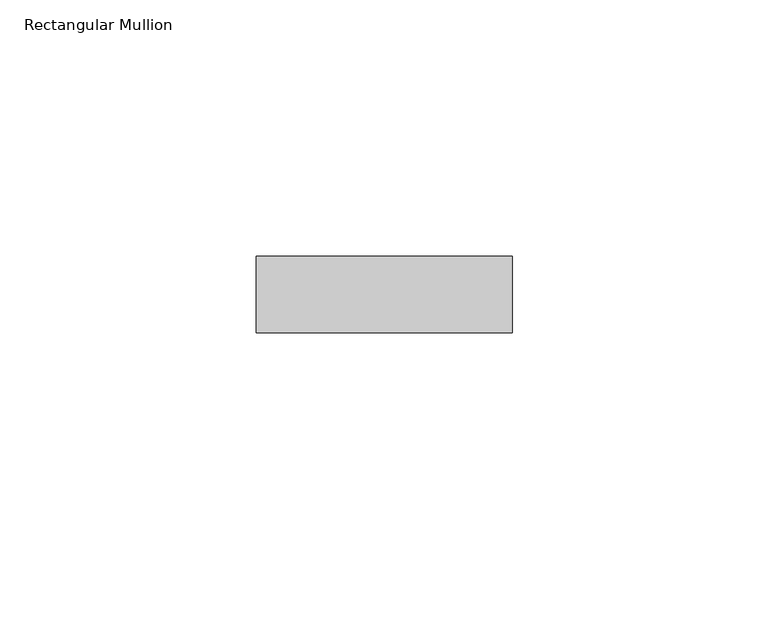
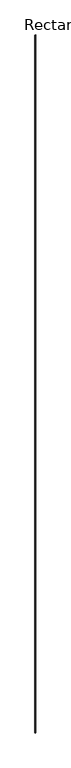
"""IFC4 building model written with IfcOpenShell, lengths in millimetres: member geometry, Rectangular Mullion : Ripa."""

from ifc_helpers import new_model, si_unit, frame, origin, place, context, project, spatial, polyline, outline, extrude, source, transform, mapped, element, save


def rectangular_mullion_f14c8d41(model_context):
    return source(origin(), model_context, "Body", "SweptSolid", [
        extrude(outline(polyline([(0.0, -75.0), (-50.0, -75.0), (-50.0, -60.0), (0.0, -60.0), (0.0, -75.0)])), frame((0.0, 0.0, -47920.4270994), z_axis=(0.0, 0.0, 1.0), x_axis=(1.0, 0.0, 0.0)), (0.0, 0.0, 1.0), 47920.4270994),
    ])


if __name__ == "__main__":
    model = new_model("IFC4")
    model_context = context("Model", 3, world=origin())
    ifc_project = project(units=[si_unit("LENGTHUNIT", "METRE", prefix="MILLI")], contexts=[model_context])
    site = spatial("IfcSite", under=ifc_project)
    building = spatial("IfcBuilding", under=site)
    placement = place(None, origin())
    rectangular_mullion_shape = rectangular_mullion_f14c8d41(model_context)
    element("IfcMember", 1, ObjectType="Rectangular Mullion : Ripa", at=placement, inside=building, context=model_context, shape_type="MappedRepresentation", body=[
        mapped(rectangular_mullion_shape, transform((0.0, 0.0, 0.0), x_axis=(1.0, 0.0, 0.0), y_axis=(0.0, 1.0, 0.0), z_axis=(0.0, 0.0, 1.0))),
    ])
    save(model, "model.ifc")
